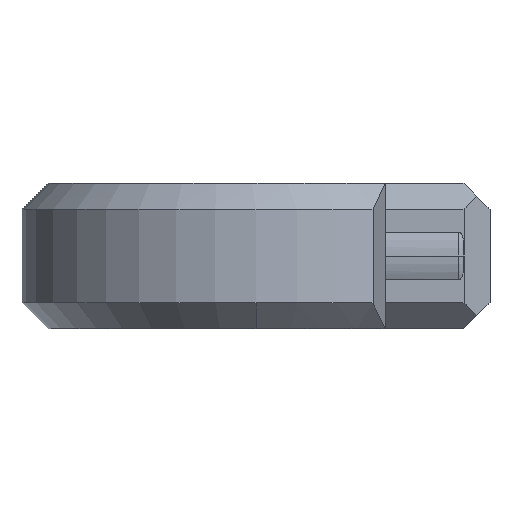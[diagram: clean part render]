
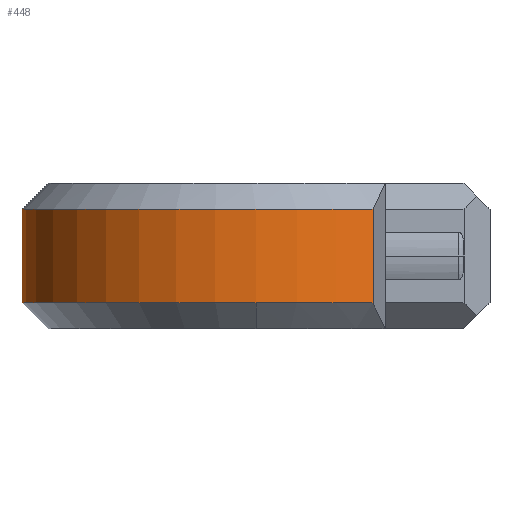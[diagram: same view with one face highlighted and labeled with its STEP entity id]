
A CAD part, left-side view. The second image highlights one B-rep face of the part: STEP entity #448.
In plain terms, the highlighted cylindrical face has radius 4.5 mm (diameter 9 mm), a partial arc.
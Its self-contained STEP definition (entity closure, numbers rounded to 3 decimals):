
#8 = ORIENTED_EDGE ( 'NONE', *, *, #1217, .T. ) ;
#38 = CARTESIAN_POINT ( 'NONE',  ( -9.897, -2.25, 2.3 ) ) ;
#81 = CARTESIAN_POINT ( 'NONE',  ( -6., 4.5, 0.5 ) ) ;
#115 = EDGE_CURVE ( 'NONE', #2178, #1221, #1144, .T. ) ;
#186 = CARTESIAN_POINT ( 'NONE',  ( -6., 0., 0.5 ) ) ;
#206 = DIRECTION ( 'NONE',  ( 0., 0., 1. ) ) ;
#232 = CARTESIAN_POINT ( 'NONE',  ( -6., 4.5, 12.287 ) ) ;
#238 = ORIENTED_EDGE ( 'NONE', *, *, #1236, .T. ) ;
#250 = VECTOR ( 'NONE', #1996, 1000. ) ;
#387 = FACE_OUTER_BOUND ( 'NONE', #2398, .T. ) ;
#398 = AXIS2_PLACEMENT_3D ( 'NONE', #186, #2528, #579 ) ;
#410 = DIRECTION ( 'NONE',  ( 0., 0., -1. ) ) ;
#434 = DIRECTION ( 'NONE',  ( 0., 0., -1. ) ) ;
#448 = ADVANCED_FACE ( 'NONE', ( #387 ), #1555, .T. ) ;
#504 = VECTOR ( 'NONE', #410, 1000. ) ;
#505 = CARTESIAN_POINT ( 'NONE',  ( -10.5, 0., 0.5 ) ) ;
#579 = DIRECTION ( 'NONE',  ( -1., 0., 0. ) ) ;
#596 = CARTESIAN_POINT ( 'NONE',  ( -6., 4.5, 2.3 ) ) ;
#624 = ORIENTED_EDGE ( 'NONE', *, *, #115, .F. ) ;
#708 = CIRCLE ( 'NONE', #2452, 4.5 ) ;
#895 = VERTEX_POINT ( 'NONE', #505 ) ;
#922 = ORIENTED_EDGE ( 'NONE', *, *, #2538, .F. ) ;
#939 = AXIS2_PLACEMENT_3D ( 'NONE', #1988, #206, #995 ) ;
#995 = DIRECTION ( 'NONE',  ( -1., 0., 0. ) ) ;
#1035 = VERTEX_POINT ( 'NONE', #81 ) ;
#1144 = CIRCLE ( 'NONE', #939, 4.5 ) ;
#1191 = EDGE_CURVE ( 'NONE', #895, #1035, #708, .T. ) ;
#1217 = EDGE_CURVE ( 'NONE', #2178, #1035, #1826, .T. ) ;
#1221 = VERTEX_POINT ( 'NONE', #38 ) ;
#1236 = EDGE_CURVE ( 'NONE', #2561, #1221, #1393, .T. ) ;
#1393 = LINE ( 'NONE', #1617, #250 ) ;
#1543 = CARTESIAN_POINT ( 'NONE',  ( -9.897, -2.25, 0.5 ) ) ;
#1555 = CYLINDRICAL_SURFACE ( 'NONE', #2025, 4.5 ) ;
#1606 = CARTESIAN_POINT ( 'NONE',  ( -6., 0., 0.5 ) ) ;
#1617 = CARTESIAN_POINT ( 'NONE',  ( -9.897, -2.25, 0. ) ) ;
#1826 = LINE ( 'NONE', #232, #504 ) ;
#1977 = CIRCLE ( 'NONE', #398, 4.5 ) ;
#1988 = CARTESIAN_POINT ( 'NONE',  ( -6., 0., 2.3 ) ) ;
#1996 = DIRECTION ( 'NONE',  ( 0., 0., 1. ) ) ;
#2025 = AXIS2_PLACEMENT_3D ( 'NONE', #2355, #2371, #2211 ) ;
#2165 = ORIENTED_EDGE ( 'NONE', *, *, #1191, .F. ) ;
#2178 = VERTEX_POINT ( 'NONE', #596 ) ;
#2211 = DIRECTION ( 'NONE',  ( 1., 0., 0. ) ) ;
#2355 = CARTESIAN_POINT ( 'NONE',  ( -6., 0., 2.8 ) ) ;
#2371 = DIRECTION ( 'NONE',  ( 0., 0., -1. ) ) ;
#2398 = EDGE_LOOP ( 'NONE', ( #238, #624, #8, #2165, #922 ) ) ;
#2441 = DIRECTION ( 'NONE',  ( -1., 0., 0. ) ) ;
#2452 = AXIS2_PLACEMENT_3D ( 'NONE', #1606, #434, #2441 ) ;
#2528 = DIRECTION ( 'NONE',  ( 0., 0., -1. ) ) ;
#2538 = EDGE_CURVE ( 'NONE', #2561, #895, #1977, .T. ) ;
#2561 = VERTEX_POINT ( 'NONE', #1543 ) ;
